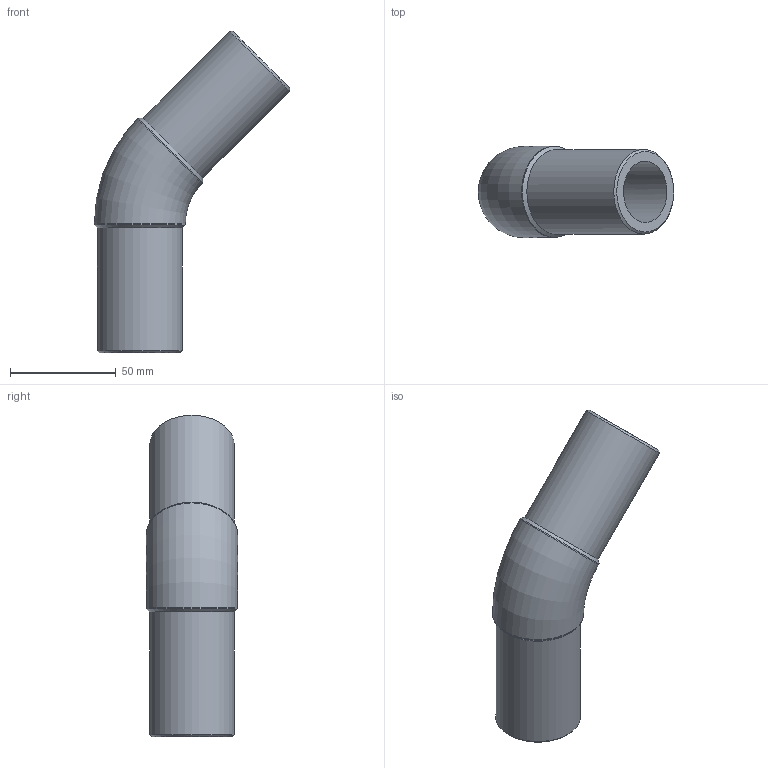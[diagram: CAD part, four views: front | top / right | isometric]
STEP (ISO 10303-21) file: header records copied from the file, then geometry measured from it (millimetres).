
FILE_DESCRIPTION(/* description */ ('Unknown'),/* implementation_level */ '2;1');
FILE_NAME(/* name */ 'G4P040H',/* time_stamp */ '2022-01-21T09:32:50+01:00',/* author */ ('Unknown'),/* organization */ ('Unknown'),/* preprocessor_version */ 'ST-DEVELOPER v18.1',/* originating_system */ 'Solid Edge',/* authorisation */ 'Unknown');
FILE_SCHEMA (('AUTOMOTIVE_DESIGN {1 0 10303 214 3 1 1}'));
Length unit declared in the file: millimetre
Products named in the file (1): G4P040H
Bounding box: 92.21 x 43 x 151.71 mm (x, y, z)
Volume: 103964.5 mm3; surface area: 36227.9 mm2
Topology: 1 solids, 1 shells, 14 faces, 34 edges, 22 vertices
Faces by surface type: cylinder 6, cone 4, plane 2, torus 2
Full cylindrical faces by diameter (mm): 29 x2, 40 x2, 43 x2
Entity records: 364 total; most frequent: CARTESIAN_POINT 64, DIRECTION 60, ORIENTED_EDGE 38, AXIS2_PLACEMENT_3D 30, EDGE_LOOP 27, FACE_BOUND 27, EDGE_CURVE 19, VERTEX_POINT 18
